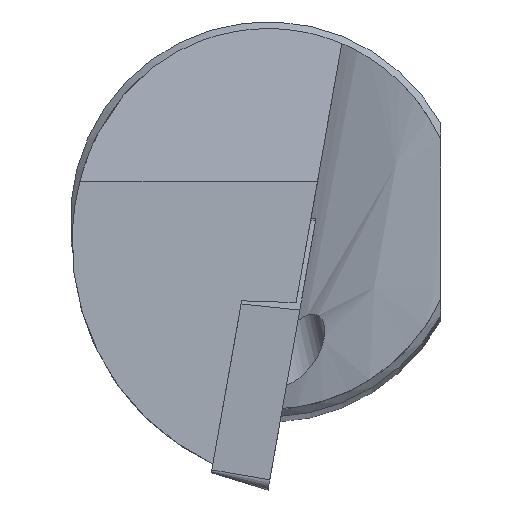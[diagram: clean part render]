
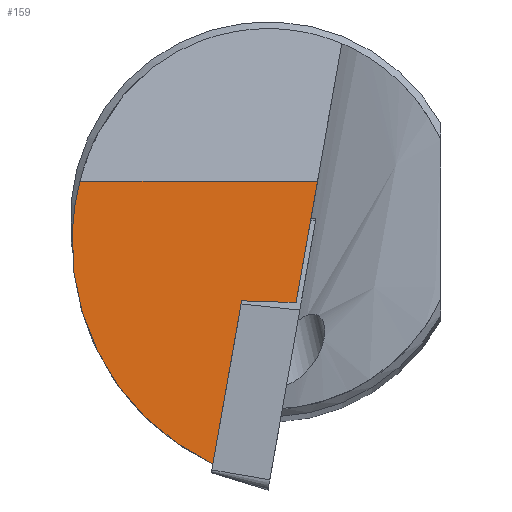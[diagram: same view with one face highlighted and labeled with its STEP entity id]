
A CAD part, top view. The second image highlights one B-rep face of the part: STEP entity #159.
In plain terms, the highlighted planar face has unit normal (0, 0.053, 0.999).
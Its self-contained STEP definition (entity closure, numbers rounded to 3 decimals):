
#51=PLANE('',#561);
#69=ELLIPSE('',#560,9.904,9.89);
#78=LINE('',#775,#118);
#79=LINE('',#778,#119);
#80=LINE('',#780,#120);
#81=LINE('',#783,#121);
#118=VECTOR('',#617,1.);
#119=VECTOR('',#618,1.);
#120=VECTOR('',#619,1.);
#121=VECTOR('',#622,1.);
#159=ADVANCED_FACE('',(#195),#51,.F.);
#195=FACE_OUTER_BOUND('',#222,.T.);
#222=EDGE_LOOP('',(#274,#275,#276,#277,#278));
#274=ORIENTED_EDGE('',*,*,#473,.F.);
#275=ORIENTED_EDGE('',*,*,#474,.F.);
#276=ORIENTED_EDGE('',*,*,#475,.T.);
#277=ORIENTED_EDGE('',*,*,#476,.F.);
#278=ORIENTED_EDGE('',*,*,#477,.T.);
#422=VERTEX_POINT('',#767);
#424=VERTEX_POINT('',#776);
#425=VERTEX_POINT('',#777);
#426=VERTEX_POINT('',#779);
#427=VERTEX_POINT('',#781);
#473=EDGE_CURVE('',#424,#425,#78,.T.);
#474=EDGE_CURVE('',#426,#424,#79,.T.);
#475=EDGE_CURVE('',#426,#427,#80,.T.);
#476=EDGE_CURVE('',#422,#427,#69,.T.);
#477=EDGE_CURVE('',#422,#425,#81,.T.);
#560=AXIS2_PLACEMENT_3D('',#782,#620,#621);
#561=AXIS2_PLACEMENT_3D('',#784,#623,#624);
#617=DIRECTION('',(-0.999,0.032,-0.002));
#618=DIRECTION('',(-0.173,-0.983,0.052));
#619=DIRECTION('',(-1.,0.,0.));
#620=DIRECTION('',(0.,-0.053,-0.999));
#621=DIRECTION('',(0.,-0.999,0.053));
#622=DIRECTION('',(0.173,0.983,-0.052));
#623=DIRECTION('',(0.,-0.053,-0.999));
#624=DIRECTION('',(0.,0.999,-0.053));
#767=CARTESIAN_POINT('',(-2.23,-9.939,-0.102));
#775=CARTESIAN_POINT('',(1.091,-3.405,-0.45));
#776=CARTESIAN_POINT('',(1.136,-3.406,-0.45));
#777=CARTESIAN_POINT('',(-1.066,-3.336,-0.454));
#778=CARTESIAN_POINT('',(0.035,-9.647,-0.118));
#779=CARTESIAN_POINT('',(2.001,1.5,-0.711));
#780=CARTESIAN_POINT('',(-10.25,1.5,-0.711));
#781=CARTESIAN_POINT('',(-7.616,1.5,-0.711));
#782=CARTESIAN_POINT('',(1.958,-0.98,-0.579));
#783=CARTESIAN_POINT('',(1.67,12.179,-1.279));
#784=CARTESIAN_POINT('',(-10.25,14.275,-1.391));
